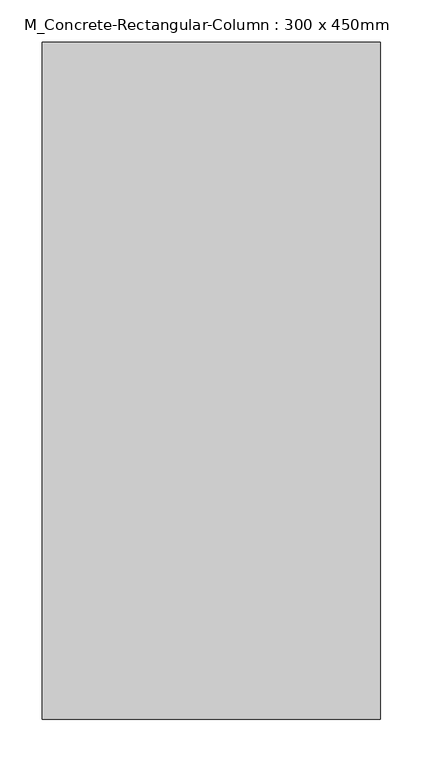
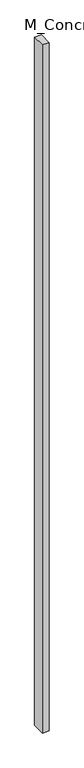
"""IFC4 building model written with IfcOpenShell, lengths in millimetres: column geometry, M_Concrete-Rectangular-Column : 300 x 450mm."""

from ifc_helpers import new_model, si_unit, frame, origin, place, context, project, spatial, polyline, outline, extrude, source, transform, mapped, element, save


def m_concrete_rectangular_column_300_x_450mm_4d62632d(model_context):
    return source(origin(), model_context, "Body", "SweptSolid", [
        extrude(outline(polyline([(200.0, 400.0), (200.0, -400.0), (-200.0, -400.0), (-200.0, 400.0), (200.0, 400.0)])), frame((0.0, 0.0, -17500.0), z_axis=(0.0, 0.0, 1.0), x_axis=(1.0, 0.0, 0.0)), (0.0, 0.0, 1.0), 43000.0),
    ])


if __name__ == "__main__":
    model = new_model("IFC4")
    model_context = context("Model", 3, world=origin())
    ifc_project = project(units=[si_unit("LENGTHUNIT", "METRE", prefix="MILLI")], contexts=[model_context])
    site = spatial("IfcSite", under=ifc_project)
    building = spatial("IfcBuilding", under=site)
    placement = place(None, origin())
    m_concrete_rectangular_column_300_x_450mm_shape = m_concrete_rectangular_column_300_x_450mm_4d62632d(model_context)
    element("IfcColumn", 1, ObjectType="M_Concrete-Rectangular-Column : 300 x 450mm", at=placement, inside=building, context=model_context, shape_type="MappedRepresentation", body=[
        mapped(m_concrete_rectangular_column_300_x_450mm_shape, transform((0.0, 0.0, 0.0), x_axis=(1.0, 0.0, 0.0), y_axis=(0.0, 1.0, 0.0), z_axis=(0.0, 0.0, 1.0))),
    ])
    save(model, "model.ifc")
